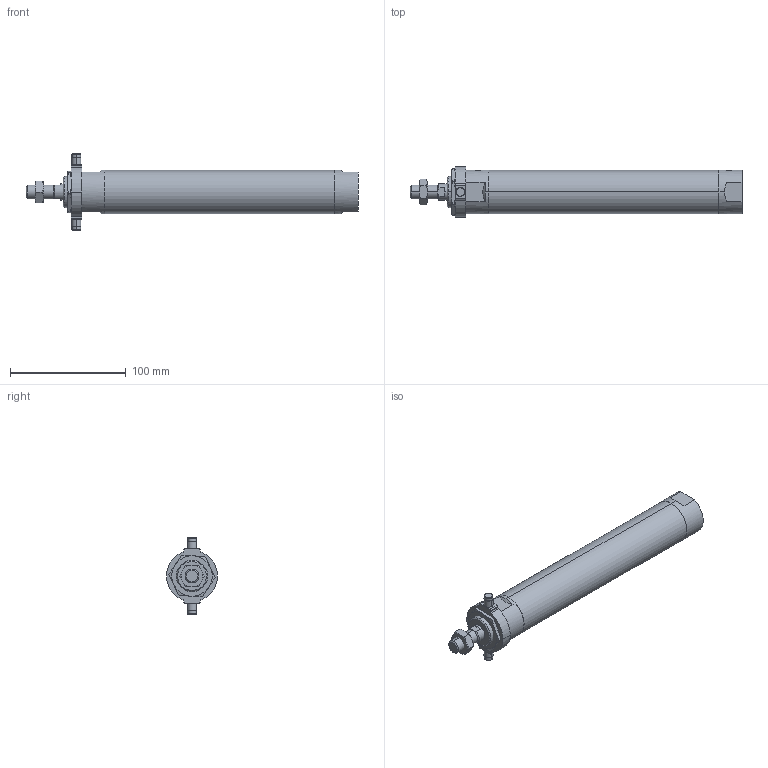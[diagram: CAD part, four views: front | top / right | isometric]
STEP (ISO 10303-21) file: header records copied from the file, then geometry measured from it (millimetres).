
FILE_DESCRIPTION (( 'STEP AP203' ), '1' );
FILE_NAME ('JGND2-32-150-T.STEP', '2016-08-04T02:55:37', ( '' ), ( '' ), 'SwSTEP 2.0', 'SolidWorks 2014', '' );
FILE_SCHEMA (( 'CONFIG_CONTROL_DESIGN' ));
Length unit declared in the file: millimetre
Products named in the file (5): J#2-32-T; J#2-32-150(P); JGND2-32-150-T
Assembly tree (4 placements, depth 2):
  JGND2-32-150-T
    J#2-32-150(P)
    (unnamed)
    (unnamed)
    J#2-32-T
Bounding box: 287 x 44 x 66 mm (x, y, z)
Volume: 288299.2 mm3; surface area: 41603.2 mm2
Topology: 4 solids, 4 shells, 128 faces, 293 edges, 177 vertices
Faces by surface type: plane 42, cylinder 41, torus 24, cone 21
Entity records: 4519 total; most frequent: CARTESIAN_POINT 1160, DIRECTION 614, ORIENTED_EDGE 578, EDGE_CURVE 289, AXIS2_PLACEMENT_3D 253, VERTEX_POINT 177, EDGE_LOOP 142, ADVANCED_FACE 128
